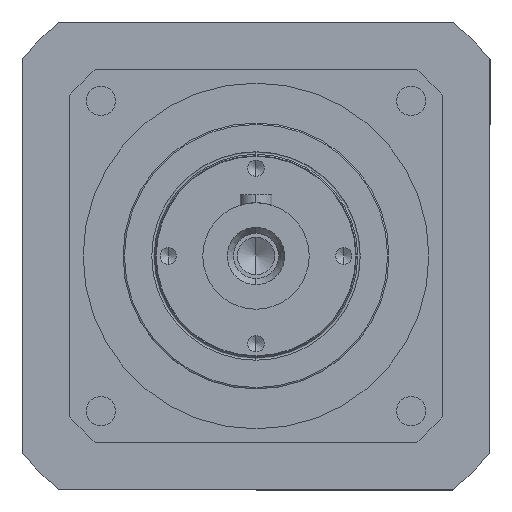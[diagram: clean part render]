
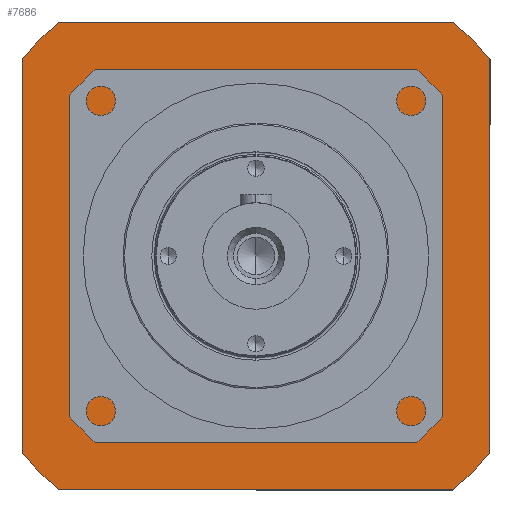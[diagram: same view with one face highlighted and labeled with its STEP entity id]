
A CAD part, left-side view. The second image highlights one B-rep face of the part: STEP entity #7686.
In plain terms, the highlighted planar face has unit normal (-1, 0, 0) as drawn and (0, 0, 1) by its records, which use the part's own axes.
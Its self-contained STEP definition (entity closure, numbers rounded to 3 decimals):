
#367 = CARTESIAN_POINT ( 'NONE',  ( 0., 0., 0. ) ) ;
#780 = VERTEX_POINT ( 'NONE', #21632 ) ;
#1037 = EDGE_LOOP ( 'NONE', ( #4129, #4005 ) ) ;
#1875 = CARTESIAN_POINT ( 'NONE',  ( 88., -74.034, 0. ) ) ;
#1989 = CARTESIAN_POINT ( 'NONE',  ( 74.034, 88., 0. ) ) ;
#2201 = EDGE_CURVE ( 'NONE', #35225, #14082, #26909, .T. ) ;
#2219 = CIRCLE ( 'NONE', #25655, 115. ) ;
#2353 = DIRECTION ( 'NONE',  ( 0., 0., -1. ) ) ;
#2984 = ORIENTED_EDGE ( 'NONE', *, *, #2201, .F. ) ;
#3065 = DIRECTION ( 'NONE',  ( 1., 0., 0. ) ) ;
#3209 = CARTESIAN_POINT ( 'NONE',  ( -88., -88., 0. ) ) ;
#3285 = AXIS2_PLACEMENT_3D ( 'NONE', #6461, #26458, #9416 ) ;
#3782 = FACE_BOUND ( 'NONE', #1037, .T. ) ;
#3786 = ORIENTED_EDGE ( 'NONE', *, *, #31428, .F. ) ;
#4005 = ORIENTED_EDGE ( 'NONE', *, *, #33169, .F. ) ;
#4129 = ORIENTED_EDGE ( 'NONE', *, *, #29898, .F. ) ;
#4149 = ORIENTED_EDGE ( 'NONE', *, *, #28167, .F. ) ;
#5956 = VERTEX_POINT ( 'NONE', #12473 ) ;
#6177 = CARTESIAN_POINT ( 'NONE',  ( 0., 0., 0. ) ) ;
#6461 = CARTESIAN_POINT ( 'NONE',  ( 0., 0., 0. ) ) ;
#7218 = CIRCLE ( 'NONE', #25248, 62.5 ) ;
#7319 = ORIENTED_EDGE ( 'NONE', *, *, #28828, .F. ) ;
#7476 = CARTESIAN_POINT ( 'NONE',  ( 0., 62.5, 0. ) ) ;
#7652 = CARTESIAN_POINT ( 'NONE',  ( -74.034, 88., 0. ) ) ;
#7686 = ADVANCED_FACE ( 'NONE', ( #3782, #17851 ), #20519, .F. ) ;
#7881 = CARTESIAN_POINT ( 'NONE',  ( 62.5, 0., 0. ) ) ;
#8011 = DIRECTION ( 'NONE',  ( 0., 0., -1. ) ) ;
#8135 = DIRECTION ( 'NONE',  ( 0., 0., -1. ) ) ;
#8283 = CARTESIAN_POINT ( 'NONE',  ( -88., 88., 0. ) ) ;
#9120 = DIRECTION ( 'NONE',  ( 1., 0., 0. ) ) ;
#9416 = DIRECTION ( 'NONE',  ( 1., 0., 0. ) ) ;
#9708 = LINE ( 'NONE', #3209, #11982 ) ;
#10008 = AXIS2_PLACEMENT_3D ( 'NONE', #19527, #2353, #22398 ) ;
#10305 = DIRECTION ( 'NONE',  ( 0., 0., -1. ) ) ;
#10371 = AXIS2_PLACEMENT_3D ( 'NONE', #6177, #26182, #9120 ) ;
#10782 = CIRCLE ( 'NONE', #3285, 62.5 ) ;
#11215 = VERTEX_POINT ( 'NONE', #31149 ) ;
#11788 = VECTOR ( 'NONE', #22265, 1000. ) ;
#11982 = VECTOR ( 'NONE', #17469, 1000. ) ;
#12473 = CARTESIAN_POINT ( 'NONE',  ( -88., 74.034, 0. ) ) ;
#12721 = LINE ( 'NONE', #8283, #27937 ) ;
#14082 = VERTEX_POINT ( 'NONE', #1875 ) ;
#14148 = CIRCLE ( 'NONE', #10008, 115. ) ;
#14444 = CARTESIAN_POINT ( 'NONE',  ( 74.034, -88., 0. ) ) ;
#14727 = VECTOR ( 'NONE', #29711, 1000. ) ;
#15228 = CIRCLE ( 'NONE', #10371, 115. ) ;
#16401 = VERTEX_POINT ( 'NONE', #1989 ) ;
#17292 = EDGE_CURVE ( 'NONE', #22955, #16401, #34139, .T. ) ;
#17469 = DIRECTION ( 'NONE',  ( -1., 0., 0. ) ) ;
#17851 = FACE_OUTER_BOUND ( 'NONE', #20087, .T. ) ;
#18915 = AXIS2_PLACEMENT_3D ( 'NONE', #27265, #10305, #29988 ) ;
#19378 = ORIENTED_EDGE ( 'NONE', *, *, #33575, .F. ) ;
#19470 = ORIENTED_EDGE ( 'NONE', *, *, #24322, .F. ) ;
#19527 = CARTESIAN_POINT ( 'NONE',  ( 0., 0., 0. ) ) ;
#20087 = EDGE_LOOP ( 'NONE', ( #33093, #32652, #4149, #19378, #3786, #7319, #2984, #19470 ) ) ;
#20251 = DIRECTION ( 'NONE',  ( 0., 0., 1. ) ) ;
#20519 = PLANE ( 'NONE',  #33426 ) ;
#21632 = CARTESIAN_POINT ( 'NONE',  ( -88., -74.034, 0. ) ) ;
#22265 = DIRECTION ( 'NONE',  ( 0., -1., 0. ) ) ;
#22398 = DIRECTION ( 'NONE',  ( 1., 0., 0. ) ) ;
#22866 = CARTESIAN_POINT ( 'NONE',  ( 88., 74.034, 0. ) ) ;
#22955 = VERTEX_POINT ( 'NONE', #7652 ) ;
#24322 = EDGE_CURVE ( 'NONE', #16401, #35225, #2219, .T. ) ;
#24326 = VERTEX_POINT ( 'NONE', #7881 ) ;
#25245 = CARTESIAN_POINT ( 'NONE',  ( 0., 0., 0. ) ) ;
#25248 = AXIS2_PLACEMENT_3D ( 'NONE', #367, #20251, #3065 ) ;
#25655 = AXIS2_PLACEMENT_3D ( 'NONE', #25245, #8135, #28040 ) ;
#26009 = CIRCLE ( 'NONE', #18915, 115. ) ;
#26137 = EDGE_CURVE ( 'NONE', #5956, #22955, #14148, .T. ) ;
#26182 = DIRECTION ( 'NONE',  ( 0., 0., -1. ) ) ;
#26458 = DIRECTION ( 'NONE',  ( 0., 0., 1. ) ) ;
#26909 = LINE ( 'NONE', #31499, #11788 ) ;
#27265 = CARTESIAN_POINT ( 'NONE',  ( 0., 0., 0. ) ) ;
#27937 = VECTOR ( 'NONE', #28152, 1000. ) ;
#28040 = DIRECTION ( 'NONE',  ( 1., 0., 0. ) ) ;
#28152 = DIRECTION ( 'NONE',  ( 0., 1., 0. ) ) ;
#28167 = EDGE_CURVE ( 'NONE', #780, #5956, #12721, .T. ) ;
#28828 = EDGE_CURVE ( 'NONE', #14082, #29098, #26009, .T. ) ;
#29098 = VERTEX_POINT ( 'NONE', #14444 ) ;
#29298 = VERTEX_POINT ( 'NONE', #32989 ) ;
#29711 = DIRECTION ( 'NONE',  ( 1., 0., 0. ) ) ;
#29898 = EDGE_CURVE ( 'NONE', #24326, #11215, #7218, .T. ) ;
#29946 = CARTESIAN_POINT ( 'NONE',  ( -88., 88., 0. ) ) ;
#29988 = DIRECTION ( 'NONE',  ( 1., 0., 0. ) ) ;
#30522 = DIRECTION ( 'NONE',  ( -1., 0., 0. ) ) ;
#31149 = CARTESIAN_POINT ( 'NONE',  ( -62.5, 0., 0. ) ) ;
#31428 = EDGE_CURVE ( 'NONE', #29098, #29298, #9708, .T. ) ;
#31499 = CARTESIAN_POINT ( 'NONE',  ( 88., 88., 0. ) ) ;
#32652 = ORIENTED_EDGE ( 'NONE', *, *, #26137, .F. ) ;
#32989 = CARTESIAN_POINT ( 'NONE',  ( -74.034, -88., 0. ) ) ;
#33093 = ORIENTED_EDGE ( 'NONE', *, *, #17292, .F. ) ;
#33169 = EDGE_CURVE ( 'NONE', #11215, #24326, #10782, .T. ) ;
#33426 = AXIS2_PLACEMENT_3D ( 'NONE', #7476, #8011, #30522 ) ;
#33575 = EDGE_CURVE ( 'NONE', #29298, #780, #15228, .T. ) ;
#34139 = LINE ( 'NONE', #29946, #14727 ) ;
#35225 = VERTEX_POINT ( 'NONE', #22866 ) ;
